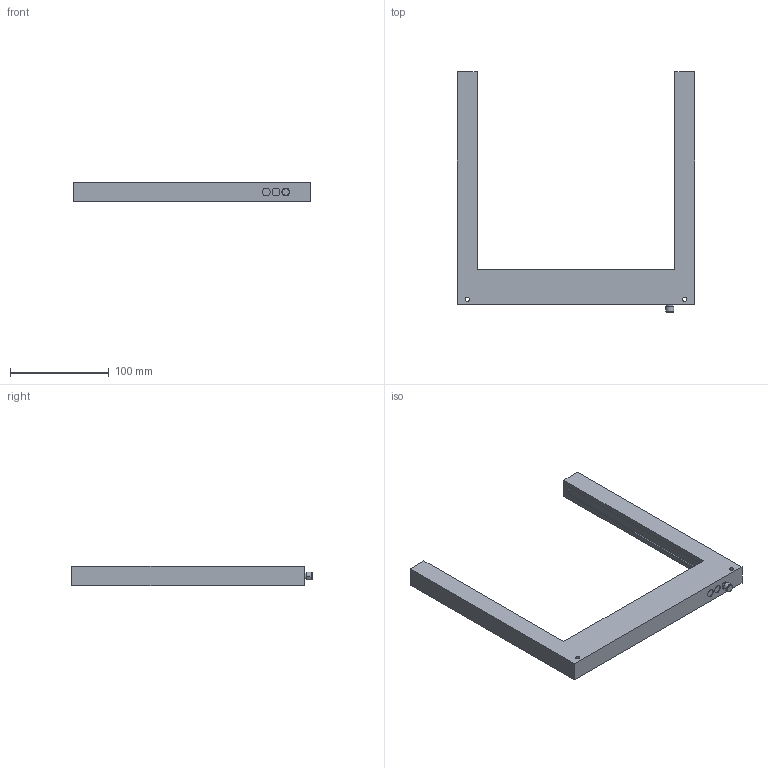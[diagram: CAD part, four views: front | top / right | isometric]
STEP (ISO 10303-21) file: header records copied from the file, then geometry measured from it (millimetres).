
FILE_DESCRIPTION(('STEP AP214'),'1');
FILE_NAME('W:/Zeichnungen/3D Modelle homepage/tmp0.step','2014-11-27T14:23:39',(' '),(' '),'Spatial InterOp 3D',' ',' ');
FILE_SCHEMA(('automotive_design'));
Length unit declared in the file: millimetre
Products named in the file (59): 1; 2; 3; 4; 5; 6; 7; 8; 9; 10; 11; 12; 13; 14; 15; 16; 17; 18; 19; 20; 21; 22; 23; 24; 25; 26; 27; 28; 29; 30; 31; 32; 33; 34; 35; 36; 37; 38; 39; 40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
Bounding box: 240 x 243 x 20 mm (x, y, z)
Surface area: 60963.3 mm2 (no closed solid volume)
Topology: 0 solids, 59 shells, 59 faces, 280 edges, 280 vertices
Faces by surface type: revolution 30, plane 29
Entity records: 4956 total; most frequent: CARTESIAN_POINT 738, DIRECTION 582, ORIENTED_EDGE 280, EDGE_CURVE 280, VERTEX_POINT 280, AXIS2_PLACEMENT_3D 184, LINE 184, VECTOR 184
